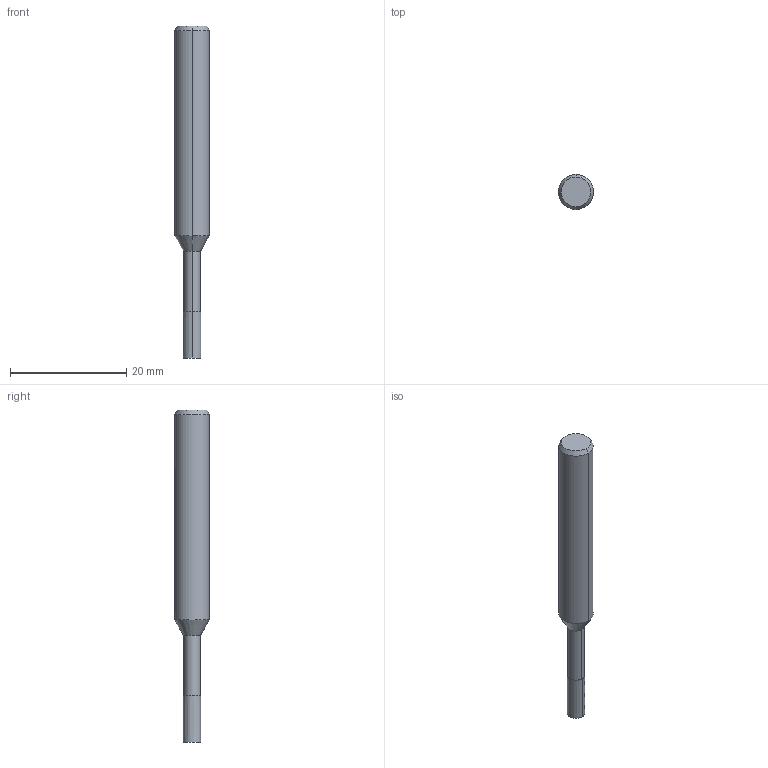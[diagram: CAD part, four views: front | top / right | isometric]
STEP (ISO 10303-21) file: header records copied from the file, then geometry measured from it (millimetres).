
FILE_DESCRIPTION(('no description'),'unknown implementation level');
FILE_NAME('solidW_pgB3V0wA9fg8Vsv9u2IML0spE_1.STP',' ',('CIMSOURCE GmbH'),('CADClick - KiM GmbH - www.kimweb.de'),'unknown preprocess','ACIS','unknown authorization');
FILE_SCHEMA(('automotive_design'));
Length unit declared in the file: millimetre
Products named in the file (2): NOCUT; CUT
Bounding box: 6 x 6 x 57 mm (x, y, z)
Volume: 1182.5 mm3; surface area: 1011.2 mm2
Topology: 2 solids, 2 shells, 41 faces, 93 edges, 58 vertices
Faces by surface type: cylinder 16, cone 14, plane 11
Entity records: 2488 total; most frequent: CARTESIAN_POINT 414, DIRECTION 211, STYLED_ITEM 194, PRESENTATION_STYLE_ASSIGNMENT 194, COLOUR_RGB 194, ORIENTED_EDGE 186, EDGE_CURVE 93, CURVE_STYLE 93
